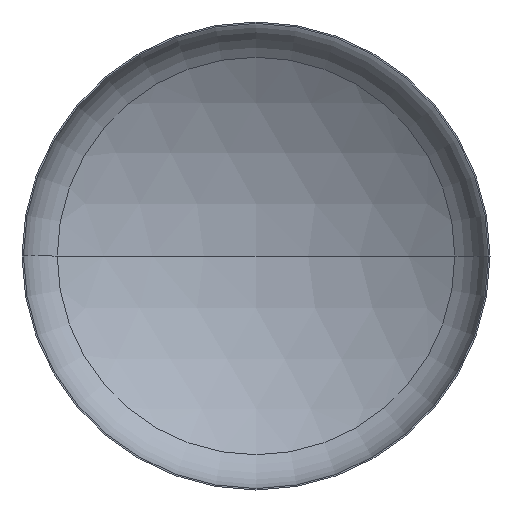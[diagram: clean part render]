
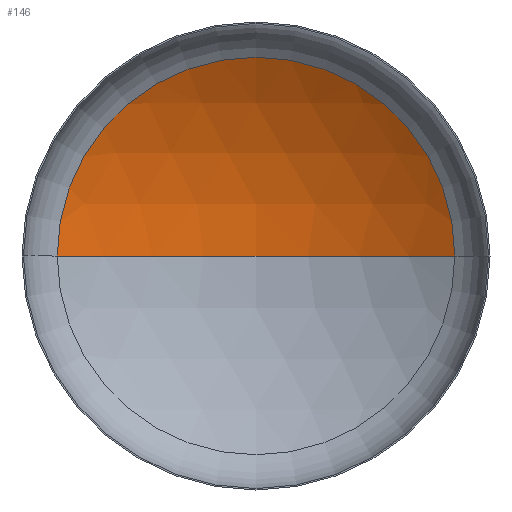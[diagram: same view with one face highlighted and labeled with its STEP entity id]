
A CAD part, front view. The second image highlights one B-rep face of the part: STEP entity #146.
In plain terms, the highlighted spherical face has radius 5200 mm.
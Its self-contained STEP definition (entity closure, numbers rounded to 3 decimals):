
#25 = ORIENTED_EDGE ( 'NONE', *, *, #135, .F. ) ;
#40 = AXIS2_PLACEMENT_3D ( 'NONE', #194, #212, #210 ) ;
#55 = AXIS2_PLACEMENT_3D ( 'NONE', #188, #191, #154 ) ;
#58 = AXIS2_PLACEMENT_3D ( 'NONE', #214, #200, #198 ) ;
#68 = AXIS2_PLACEMENT_3D ( 'NONE', #285, #280, #279 ) ;
#116 = EDGE_LOOP ( 'NONE', ( #25, #130, #126 ) ) ;
#126 = ORIENTED_EDGE ( 'NONE', *, *, #129, .T. ) ;
#129 = EDGE_CURVE ( 'NONE', #153, #139, #404, .T. ) ;
#130 = ORIENTED_EDGE ( 'NONE', *, *, #131, .T. ) ;
#131 = EDGE_CURVE ( 'NONE', #247, #153, #169, .T. ) ;
#135 = EDGE_CURVE ( 'NONE', #247, #139, #350, .T. ) ;
#139 = VERTEX_POINT ( 'NONE', #186 ) ;
#146 = ADVANCED_FACE ( 'NONE', ( #217 ), #215, .F. ) ;
#153 = VERTEX_POINT ( 'NONE', #371 ) ;
#154 = DIRECTION ( 'NONE',  ( 1., 0., 0. ) ) ;
#169 = CIRCLE ( 'NONE', #58, 5200. ) ;
#186 = CARTESIAN_POINT ( 'NONE',  ( -2760.952, 907.402, 0. ) ) ;
#188 = CARTESIAN_POINT ( 'NONE',  ( 0., -3499.087, 0. ) ) ;
#191 = DIRECTION ( 'NONE',  ( 0., 0., 1. ) ) ;
#194 = CARTESIAN_POINT ( 'NONE',  ( 0., -3499.087, 0. ) ) ;
#198 = DIRECTION ( 'NONE',  ( -1., 0., 0. ) ) ;
#200 = DIRECTION ( 'NONE',  ( 0., 0., -1. ) ) ;
#210 = DIRECTION ( 'NONE',  ( -1., 0., 0. ) ) ;
#212 = DIRECTION ( 'NONE',  ( 0., 0., -1. ) ) ;
#214 = CARTESIAN_POINT ( 'NONE',  ( 0., -3499.087, 0. ) ) ;
#215 = SPHERICAL_SURFACE ( 'NONE', #40, 5200. ) ;
#217 = FACE_OUTER_BOUND ( 'NONE', #116, .T. ) ;
#247 = VERTEX_POINT ( 'NONE', #384 ) ;
#279 = DIRECTION ( 'NONE',  ( 1., 0., 0. ) ) ;
#280 = DIRECTION ( 'NONE',  ( 0., -1., 0. ) ) ;
#285 = CARTESIAN_POINT ( 'NONE',  ( 0., 907.402, 0. ) ) ;
#350 = CIRCLE ( 'NONE', #55, 5200. ) ;
#371 = CARTESIAN_POINT ( 'NONE',  ( 2760.952, 907.402, 0. ) ) ;
#384 = CARTESIAN_POINT ( 'NONE',  ( 0., 1700.913, 0. ) ) ;
#404 = CIRCLE ( 'NONE', #68, 2760.952 ) ;
